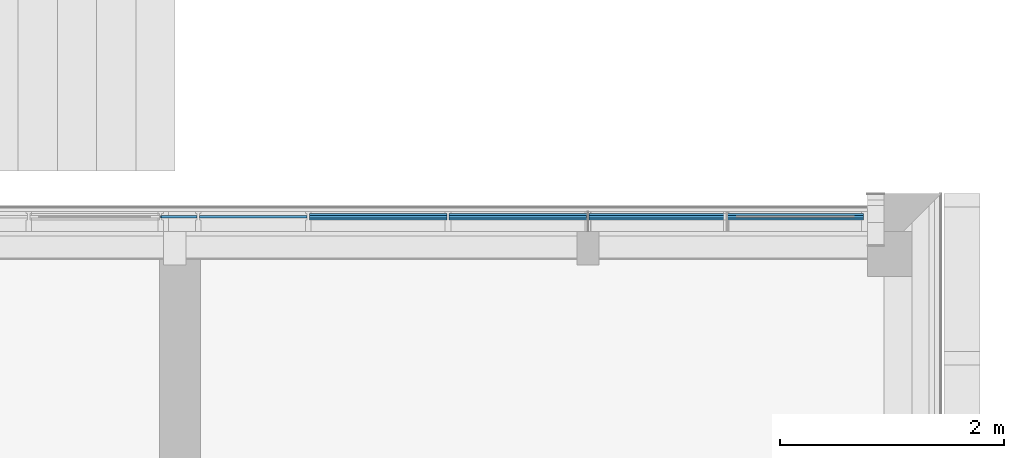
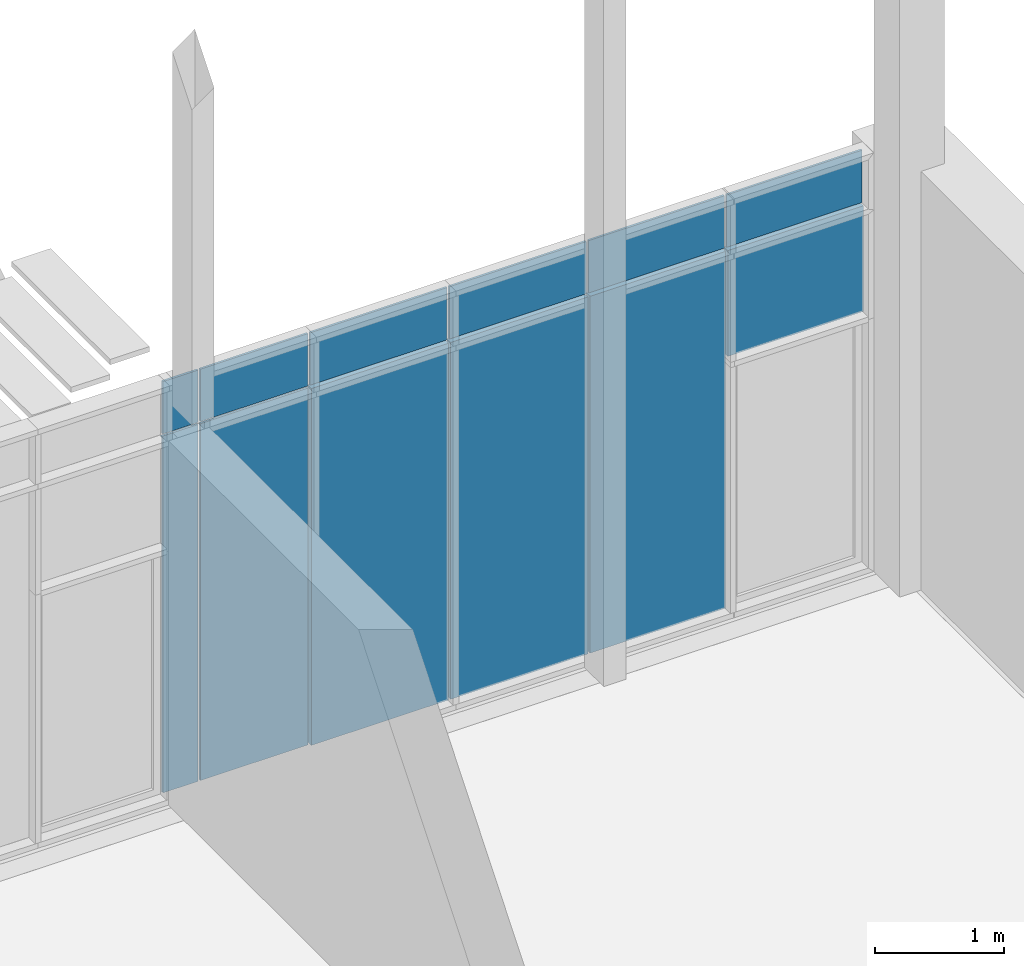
# One storey, part 10 of 89: 12 plates, 1 element without a shape of its own.
"""IFC2X3 building model written with IfcOpenShell, lengths in millimetres."""

from ifc_helpers import new_model, entity, si_unit, converted_unit, derived_unit, money_unit, direction, frame, origin_with_axes, place, context, subcontext, project, spatial, polyline, outline, extrude, material, type_object, element, aggregate, save


model = new_model("IFC2X3")

# Units and contexts
model_context = context("Model", 3, precision=0.01, world=origin_with_axes(), true_north=direction((0.0, 1.0)))
body_context = subcontext(model_context, "Body", "Model", "MODEL_VIEW")
ifc_project = project(units=[si_unit("LENGTHUNIT", "METRE", prefix="MILLI"), si_unit("AREAUNIT", "SQUARE_METRE"), si_unit("VOLUMEUNIT", "CUBIC_METRE"), converted_unit("PLANEANGLEUNIT", "DEGREE", entity("IfcPlaneAngleMeasure", 0.0174532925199), si_unit("PLANEANGLEUNIT", "RADIAN"), dimensions=[0, 0, 0, 0, 0, 0, 0]), si_unit("SOLIDANGLEUNIT", "STERADIAN"), money_unit("EUR"), converted_unit("TIMEUNIT", "Year", entity("IfcTimeMeasure", 31556926.0), si_unit("TIMEUNIT", "SECOND"), dimensions=[0, 0, 1, 0, 0, 0, 0]), si_unit("MASSUNIT", "GRAM", prefix="KILO"), si_unit("THERMODYNAMICTEMPERATUREUNIT", "DEGREE_CELSIUS"), si_unit("LUMINOUSINTENSITYUNIT", "LUMEN"), si_unit("ENERGYUNIT", "JOULE", prefix="MEGA"), derived_unit("THERMALCONDUCTANCEUNIT", [(si_unit("POWERUNIT", "WATT"), 1), (si_unit("LENGTHUNIT", "METRE"), -1), (si_unit("THERMODYNAMICTEMPERATUREUNIT", "KELVIN"), -1)]), derived_unit("SPECIFICHEATCAPACITYUNIT", [(si_unit("ENERGYUNIT", "JOULE"), 1), (si_unit("MASSUNIT", "GRAM", prefix="KILO"), -1), (si_unit("THERMODYNAMICTEMPERATUREUNIT", "KELVIN"), -1)]), derived_unit("MASSDENSITYUNIT", [(si_unit("MASSUNIT", "GRAM", prefix="KILO"), 1), (si_unit("VOLUMEUNIT", "CUBIC_METRE"), -1)])], contexts=[model_context])

# Site, building, storey
site_placement = place(None, origin_with_axes())
site = spatial("IfcSite", under=ifc_project, at=site_placement, Name="Puškini 31, Narva", CompositionType="ELEMENT")
building_placement = place(site_placement, origin_with_axes())
building = spatial("IfcBuilding", under=site, at=building_placement, Name="Narva Riigigümnaasium", CompositionType="ELEMENT")
storey_placement = place(building_placement, frame((0.0, 0.0, -3300.0), z_axis=(0.0, 0.0, 1.0), x_axis=(1.0, 0.0, 0.0)))
storey = spatial("IfcBuildingStorey", under=building, at=storey_placement, Name="1.korrus -3.3", CompositionType="ELEMENT", Elevation=-3300.0)

# Curtain wall, plates
curtain_wall_type = type_object("IfcCurtainWallType", Name="Curtain Wall Type", PredefinedType="NOTDEFINED")
curtain_wall_placement = place(storey_placement, frame((47634.9999923, 254360.0, -1.86566340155e-05), z_axis=(0.0, 0.0, 1.0), x_axis=(1.0, 0.0, 0.0)))
curtain_wall = element("IfcCurtainWall", 1, at=curtain_wall_placement, inside=storey, type_object=curtain_wall_type, Name="G-KLF-06")
ifc_material_1 = material(Name="Alumiiniumprofiil")
plate_type_1 = type_object("IfcPlateType", Name="60 x 495 x 20", PredefinedType="CURTAIN_PANEL")
plate_1_placement = place(curtain_wall_placement, frame((0.0, 0.0, 3690.00002884), z_axis=(0.0, 0.0, 1.0), x_axis=(-1.0, 0.0, 0.0)))
plate_1 = element("IfcPlate", 2, at=plate_1_placement, type_object=plate_type_1, material=ifc_material_1, Name="klaasfassaadi klaas", ObjectType="CURTAIN_PANEL", context=body_context, shape_type="SweptSolid", body=[
    extrude(outline(polyline([(-190.000009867, -234.999986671), (125.000018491, -234.999986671), (125.000018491, 259.999986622), (-190.000009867, 259.999986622), (-190.000009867, -234.999986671)])), frame((0.0, -10.0, 0.0), z_axis=(0.0, 1.0, 0.0), x_axis=(1.0, 0.0, 0.0)), (0.0, 0.0, 1.0), 20.0),
])
ifc_material_2 = material(Name="Klaas")
plate_type_2 = type_object("IfcPlateType", Name="Main Panel 1226 x 3375 x 58", PredefinedType="CURTAIN_PANEL")
plate_2_placement = place(curtain_wall_placement, frame((1804.00000899, 0.0, 1710.00001951), z_axis=(0.0, 0.0, 1.0), x_axis=(-1.0, 0.0, 0.0)))
plate_2 = element("IfcPlate", 3, at=plate_2_placement, type_object=plate_type_2, material=ifc_material_2, Name="klaasfassaadi klaas", ObjectType="CURTAIN_PANEL", context=body_context, shape_type="SweptSolid", body=[
    extrude(outline(polyline([(-613.000024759, -1699.99999704), (612.999977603, -1699.99999704), (612.999977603, 1675.00001732), (-613.000024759, 1675.00001732), (-613.000024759, -1699.99999704)])), frame((0.0, -29.0, 0.0), z_axis=(0.0, 1.0, 0.0), x_axis=(1.0, 0.0, 0.0)), (0.0, 0.0, 1.0), 58.0),
])
ifc_material_3 = material(Name="VKR-05_Klaas")
plate_type_3 = type_object("IfcPlateType", Name="1 x 1000 x 58", PredefinedType="CURTAIN_PANEL")
plate_3_placement = place(curtain_wall_placement, frame((5444.8887336, 0.0, 2837.14288951), z_axis=(0.0, 0.0, 1.0), x_axis=(-1.0, 0.0, 0.0)))
plate_3 = element("IfcPlate", 4, at=plate_3_placement, type_object=plate_type_3, material=ifc_material_3, Name="klaasfassaadi klaas", ObjectType="CURTAIN_PANEL", context=body_context, shape_type="SweptSolid", body=[
    extrude(outline(polyline([(-685.111283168, -572.857154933), (527.388714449, -572.857154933), (527.388714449, 427.142869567), (-685.111283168, 427.142869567), (-685.111283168, -572.857154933)])), frame((0.0, -29.0, 0.0), z_axis=(0.0, 1.0, 0.0), x_axis=(1.0, 0.0, 0.0)), (0.0, 0.0, 1.0), 58.0),
])
plate_type_4 = type_object("IfcPlateType", Name="1226 x 495 x 20", PredefinedType="CURTAIN_PANEL")
plate_4_placement = place(curtain_wall_placement, frame((1804.00000899, 0.0, 3690.00002884), z_axis=(0.0, 0.0, 1.0), x_axis=(-1.0, 0.0, 0.0)))
plate_4 = element("IfcPlate", 5, at=plate_4_placement, type_object=plate_type_4, material=ifc_material_1, Name="klaasfassaadi klaas", ObjectType="CURTAIN_PANEL", context=body_context, shape_type="SweptSolid", body=[
    extrude(outline(polyline([(-612.99999822, -234.999992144), (612.99999822, -234.999992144), (612.99999822, 259.999987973), (-612.99999822, 259.999987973), (-612.99999822, -234.999992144)])), frame((0.0, -9.99999999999, 0.0), z_axis=(0.0, 1.0, 0.0), x_axis=(1.0, 0.0, 0.0)), (0.0, 0.0, 1.0), 20.0),
])
plate_5_placement = place(curtain_wall_placement, frame((3050.00000913, 0.0, 3690.00002884), z_axis=(0.0, 0.0, 1.0), x_axis=(-1.0, 0.0, 0.0)))
plate_5 = element("IfcPlate", 6, at=plate_5_placement, type_object=plate_type_4, material=ifc_material_1, Name="klaasfassaadi klaas", ObjectType="CURTAIN_PANEL", context=body_context, shape_type="SweptSolid", body=[
    extrude(outline(polyline([(-612.99999822, -234.999992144), (612.99999822, -234.999992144), (612.99999822, 259.999987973), (-612.99999822, 259.999987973), (-612.99999822, -234.999992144)])), frame((0.0, -9.99999999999, 0.0), z_axis=(0.0, 1.0, 0.0), x_axis=(1.0, 0.0, 0.0)), (0.0, 0.0, 1.0), 20.0),
])
plate_type_5 = type_object("IfcPlateType", Name="70 x 15 x 20", PredefinedType="CURTAIN_PANEL")
plate_6_placement = place(curtain_wall_placement, frame((-33.7500054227, 0.0, 2006.87502781), z_axis=(0.0, 0.0, 1.0), x_axis=(-1.0, 0.0, 0.0)))
plate_6 = element("IfcPlate", 7, at=plate_6_placement, type_object=plate_type_5, material=ifc_material_1, Name="klaasfassaadi klaas", ObjectType="CURTAIN_PANEL", context=body_context, shape_type="SweptSolid", body=[
    extrude(outline(polyline([(-223.750025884, -1403.12498874), (101.250016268, -1403.12498874), (101.250016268, -1388.12503148), (91.2499938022, -1388.12503148), (91.2499938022, 1971.87502562), (-223.750025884, 1971.87502562), (-223.750025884, -1403.12498874)])), frame((0.0, -10.0, 0.0), z_axis=(0.0, 1.0, 0.0), x_axis=(1.0, 0.0, 0.0)), (0.0, 0.0, 1.0), 20.0),
])
plate_type_6 = type_object("IfcPlateType", Name="961 x 495 x 20", PredefinedType="CURTAIN_PANEL")
plate_7_placement = place(curtain_wall_placement, frame((690.500010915, 0.0, 3690.00002884), z_axis=(0.0, 0.0, 1.0), x_axis=(-1.0, 0.0, 0.0)))
plate_7 = element("IfcPlate", 8, at=plate_7_placement, type_object=plate_type_6, material=ifc_material_1, Name="klaasfassaadi klaas", ObjectType="CURTAIN_PANEL", context=body_context, shape_type="SweptSolid", body=[
    extrude(outline(polyline([(-480.499992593, -234.999991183), (480.499992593, -234.999991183), (480.499992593, 259.999984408), (-480.499992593, 259.999984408), (-480.499992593, -234.999991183)])), frame((0.0, -9.99999999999, 0.0), z_axis=(0.0, 1.0, 0.0), x_axis=(1.0, 0.0, 0.0)), (0.0, 0.0, 1.0), 20.0),
])
plate_type_7 = type_object("IfcPlateType", Name="1 x 495 x 20", PredefinedType="CURTAIN_PANEL")
plate_8_placement = place(curtain_wall_placement, frame((5330.50001513, 0.0, 3690.00002884), z_axis=(0.0, 0.0, 1.0), x_axis=(-1.0, 0.0, 0.0)))
plate_8 = element("IfcPlate", 9, at=plate_8_placement, type_object=plate_type_7, material=ifc_material_1, Name="klaasfassaadi klaas", ObjectType="CURTAIN_PANEL", context=body_context, shape_type="SweptSolid", body=[
    extrude(outline(polyline([(-799.500001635, -234.999990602), (412.999995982, -234.999990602), (412.999995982, 259.999997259), (-799.500001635, 259.999997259), (-799.500001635, -234.999990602)])), frame((0.0, -10.0, 0.0), z_axis=(0.0, 1.0, 0.0), x_axis=(1.0, 0.0, 0.0)), (0.0, 0.0, 1.0), 20.0),
])
plate_type_8 = type_object("IfcPlateType", Name="961 x 3375 x 20", PredefinedType="CURTAIN_PANEL")
plate_9_placement = place(curtain_wall_placement, frame((690.500010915, 0.0, 1710.00001951), z_axis=(0.0, 0.0, 1.0), x_axis=(-1.0, 0.0, 0.0)))
plate_9 = element("IfcPlate", 10, at=plate_9_placement, type_object=plate_type_8, material=ifc_material_2, Name="klaasfassaadi klaas", ObjectType="CURTAIN_PANEL", context=body_context, shape_type="SweptSolid", body=[
    extrude(outline(polyline([(-480.500017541, -1699.99999704), (480.499975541, -1699.99999704), (480.499975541, 1675.00001732), (-480.500017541, 1675.00001732), (-480.500017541, -1699.99999704)])), frame((0.0, -9.99999999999, 0.0), z_axis=(0.0, 1.0, 0.0), x_axis=(1.0, 0.0, 0.0)), (0.0, 0.0, 1.0), 20.0),
])
plate_type_9 = type_object("IfcPlateType", Name="Main Panel 1213 x 3375 x 58", PredefinedType="CURTAIN_PANEL")
plate_10_placement = place(curtain_wall_placement, frame((4414.5000131, 0.0, 1848.00002108), z_axis=(0.0, 0.0, 1.0), x_axis=(-1.0, 0.0, 0.0)))
plate_10 = element("IfcPlate", 11, at=plate_10_placement, type_object=plate_type_9, material=ifc_material_2, Name="klaasfassaadi klaas", ObjectType="CURTAIN_PANEL", context=body_context, shape_type="SweptSolid", body=[
    extrude(outline(polyline([(-483.000012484, -1561.99999547), (729.499997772, -1561.99999547), (729.499997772, 1813.00001889), (-483.000012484, 1813.00001889), (-483.000012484, -1561.99999547)])), frame((0.0, -29.0, 0.0), z_axis=(0.0, 1.0, 0.0), x_axis=(1.0, 0.0, 0.0)), (0.0, 0.0, 1.0), 58.0),
])
plate_type_10 = type_object("IfcPlateType", Name="1215 x 495 x 20", PredefinedType="CURTAIN_PANEL")
plate_11_placement = place(curtain_wall_placement, frame((4167.20001289, 0.0, 3636.00003087), z_axis=(0.0, 0.0, 1.0), x_axis=(-1.0, 0.0, 0.0)))
plate_11 = element("IfcPlate", 12, at=plate_11_placement, type_object=plate_type_10, material=ifc_material_1, Name="klaasfassaadi klaas", ObjectType="CURTAIN_PANEL", context=body_context, shape_type="SweptSolid", body=[
    extrude(outline(polyline([(-730.300016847, -288.999987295), (484.200006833, -288.999987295), (484.200006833, 205.999995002), (-730.300016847, 205.999995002), (-730.300016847, -288.999987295)])), frame((0.0, -9.99999999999, 0.0), z_axis=(0.0, 1.0, 0.0), x_axis=(1.0, 0.0, 0.0)), (0.0, 0.0, 1.0), 20.0),
])
plate_type_11 = type_object("IfcPlateType", Name="Main Panel 1228 x 3375 x 58", PredefinedType="CURTAIN_PANEL")
plate_12_placement = place(curtain_wall_placement, frame((3258.33333704, 0.0, 1710.00001951), z_axis=(0.0, 0.0, 1.0), x_axis=(-1.0, 0.0, 0.0)))
plate_12 = element("IfcPlate", 13, at=plate_12_placement, type_object=plate_type_11, material=ifc_material_2, Name="klaasfassaadi klaas", ObjectType="CURTAIN_PANEL", context=body_context, shape_type="SweptSolid", body=[
    extrude(outline(polyline([(-406.66665038, -1699.99999704), (821.333305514, -1699.99999704), (821.333305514, 1675.00001732), (-406.66665038, 1675.00001732), (-406.66665038, -1699.99999704)])), frame((0.0, -29.0, 0.0), z_axis=(0.0, 1.0, 0.0), x_axis=(1.0, 0.0, 0.0)), (0.0, 0.0, 1.0), 58.0),
])
aggregate(curtain_wall, [plate_1, plate_2, plate_3, plate_6, plate_7, plate_4, plate_5, plate_8, plate_9, plate_10, plate_11, plate_12])

save(model, "model.ifc")
